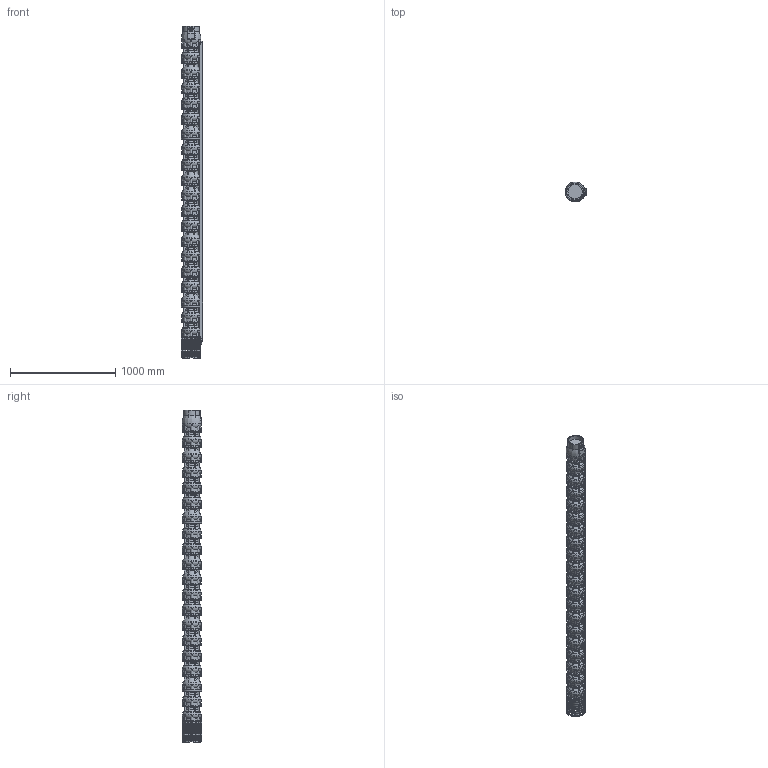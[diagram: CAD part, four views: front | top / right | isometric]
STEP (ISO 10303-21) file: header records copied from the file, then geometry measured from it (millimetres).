
FILE_DESCRIPTION(/* description */ ('Unknown'),/* implementation_level */ '2;1');
FILE_NAME(/* name */ 'VSI134-19_WR_M8-50_DLE',/* time_stamp */ '2023-09-14T14:41:00+02:00',/* author */ ('Unknown'),/* organization */ ('Unknown'),/* preprocessor_version */ 'ST-DEVELOPER v18.102',/* originating_system */ 'Solid Edge',/* authorisation */ 'Unknown');
FILE_SCHEMA (('PROCESS_PLANNING_SCHEMA','AUTOMOTIVE_DESIGN {1 0 10303 214 3 1 1}'));
Products named in the file (11): VSI134-19_WR_M8-50_DLE; VSI134_testata; VSI134_diffusore; VSI134_supporto_8×8; VSI134_filtro_A; VSI134_filtro_B; VSI134_terminale_top_copricavo_basso; VSI134_terminale_bottom_copricavo_basso; LOW 134-19; M5X8_UNI7687; VSI134_giunto_8×8
Assembly tree (37 placements, depth 2):
  VSI134-19_WR_M8-50_DLE
    VSI134_testata
    VSI134_diffusore  x19
    VSI134_supporto_8×8
    VSI134_filtro_A
    VSI134_filtro_B
    VSI134_terminale_top_copricavo_basso
    VSI134_terminale_bottom_copricavo_basso
    LOW 134-19
    M5X8_UNI7687  x10
    VSI134_giunto_8×8
Bounding box: 201.57 x 183.52 x 3152 mm (x, y, z)
Volume: 58793919.8 mm3; surface area: 4179408.9 mm2
Topology: 76 solids, 78 shells, 5605 faces, 15837 edges, 10581 vertices
Faces by surface type: plane 3921, torus 871, cylinder 700, cone 70, bspline 31, sphere 12
Full cylindrical faces by diameter (mm): 2.4 x2, 3 x2, 4.2 x16, 5 x10, 5.5 x8, 26 x1, 44 x1, 69 x1, 74 x1, 98 x1, 135.472 x1, 157 x1, 182 x20
Entity records: 85609 total; most frequent: CARTESIAN_POINT 18370, ORIENTED_EDGE 14056, DIRECTION 13504, EDGE_CURVE 7028, VERTEX_POINT 4730, AXIS2_PLACEMENT_3D 4603, LINE 4298, VECTOR 4298
